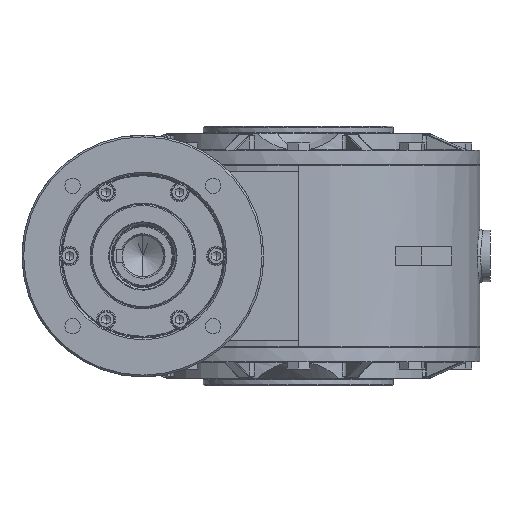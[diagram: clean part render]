
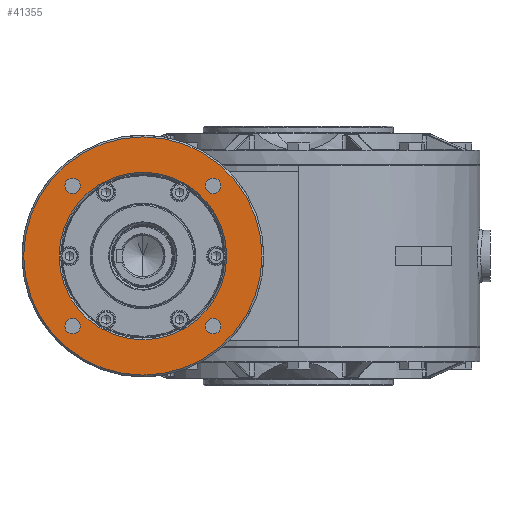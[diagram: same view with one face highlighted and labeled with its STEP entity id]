
A CAD part, left-side view. The second image highlights one B-rep face of the part: STEP entity #41355.
In plain terms, the highlighted planar face has unit normal (-1, 0, 0).
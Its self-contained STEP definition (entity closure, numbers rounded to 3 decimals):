
#3518 = DIRECTION ( 'NONE',  ( 0., 0., -1. ) ) ;
#3519 = DIRECTION ( 'NONE',  ( -1., 0., 0. ) ) ;
#3520 = CARTESIAN_POINT ( 'NONE',  ( -128., 90., 0. ) ) ;
#3521 = AXIS2_PLACEMENT_3D ( 'NONE', #3520, #3519, #3518 ) ;
#3522 = CIRCLE ( 'NONE', #3521, 69. ) ;
#3526 = FACE_BOUND ( 'NONE', #41312, .T. ) ;
#3527 = FACE_OUTER_BOUND ( 'NONE', #41749, .T. ) ;
#3572 = PLANE ( 'NONE',  #3594 ) ;
#3573 = FACE_BOUND ( 'NONE', #41709, .T. ) ;
#3574 = FACE_BOUND ( 'NONE', #41533, .T. ) ;
#3575 = FACE_BOUND ( 'NONE', #41528, .T. ) ;
#3577 = FACE_BOUND ( 'NONE', #41337, .T. ) ;
#3591 = DIRECTION ( 'NONE',  ( 0., -1., 0. ) ) ;
#3592 = DIRECTION ( 'NONE',  ( -1., 0., 0. ) ) ;
#3593 = CARTESIAN_POINT ( 'NONE',  ( -128., 90., 0. ) ) ;
#3594 = AXIS2_PLACEMENT_3D ( 'NONE', #3593, #3592, #3591 ) ;
#6884 = DIRECTION ( 'NONE',  ( 0., 0., 1. ) ) ;
#6885 = DIRECTION ( 'NONE',  ( 1., 0., 0. ) ) ;
#6886 = CARTESIAN_POINT ( 'NONE',  ( -128., 90., 0. ) ) ;
#6887 = AXIS2_PLACEMENT_3D ( 'NONE', #6886, #6885, #6884 ) ;
#6888 = CIRCLE ( 'NONE', #6887, 48.5 ) ;
#21525 = EDGE_CURVE ( 'NONE', #35890, #36058, #64818, .T. ) ;
#21539 = EDGE_CURVE ( 'NONE', #36050, #36053, #64704, .T. ) ;
#21567 = EDGE_CURVE ( 'NONE', #36160, #36065, #64690, .T. ) ;
#21583 = EDGE_CURVE ( 'NONE', #36175, #36178, #64973, .T. ) ;
#23834 = CIRCLE ( 'NONE', #23865, 48.5 ) ;
#23861 = CARTESIAN_POINT ( 'NONE',  ( -128., 90., 48.5 ) ) ;
#23862 = DIRECTION ( 'NONE',  ( 0., 0., 1. ) ) ;
#23863 = DIRECTION ( 'NONE',  ( 1., 0., 0. ) ) ;
#23864 = CARTESIAN_POINT ( 'NONE',  ( -128., 90., 0. ) ) ;
#23865 = AXIS2_PLACEMENT_3D ( 'NONE', #23864, #23863, #23862 ) ;
#35890 = VERTEX_POINT ( 'NONE', #77861 ) ;
#36050 = VERTEX_POINT ( 'NONE', #78934 ) ;
#36052 = EDGE_CURVE ( 'NONE', #36053, #36050, #78983, .T. ) ;
#36053 = VERTEX_POINT ( 'NONE', #78978 ) ;
#36057 = EDGE_CURVE ( 'NONE', #36058, #35890, #78838, .T. ) ;
#36058 = VERTEX_POINT ( 'NONE', #78830 ) ;
#36064 = EDGE_CURVE ( 'NONE', #36065, #36160, #78811, .T. ) ;
#36065 = VERTEX_POINT ( 'NONE', #78800 ) ;
#36160 = VERTEX_POINT ( 'NONE', #79304 ) ;
#36175 = VERTEX_POINT ( 'NONE', #79132 ) ;
#36177 = EDGE_CURVE ( 'NONE', #36178, #36175, #79131, .T. ) ;
#36178 = VERTEX_POINT ( 'NONE', #79126 ) ;
#38046 = EDGE_CURVE ( 'NONE', #38047, #38049, #87212, .T. ) ;
#38047 = VERTEX_POINT ( 'NONE', #87208 ) ;
#38049 = VERTEX_POINT ( 'NONE', #87207 ) ;
#38250 = EDGE_CURVE ( 'NONE', #38252, #39947, #23834, .T. ) ;
#38252 = VERTEX_POINT ( 'NONE', #23861 ) ;
#39947 = VERTEX_POINT ( 'NONE', #71447 ) ;
#41307 = EDGE_CURVE ( 'NONE', #38049, #38047, #3522, .T. ) ;
#41309 = ORIENTED_EDGE ( 'NONE', *, *, #38046, .T. ) ;
#41312 = EDGE_LOOP ( 'NONE', ( #41314, #41527 ) ) ;
#41314 = ORIENTED_EDGE ( 'NONE', *, *, #36057, .T. ) ;
#41337 = EDGE_LOOP ( 'NONE', ( #41339, #41744 ) ) ;
#41339 = ORIENTED_EDGE ( 'NONE', *, *, #38250, .T. ) ;
#41341 = ORIENTED_EDGE ( 'NONE', *, *, #41307, .T. ) ;
#41355 = ADVANCED_FACE ( 'NONE', ( #3577, #3527, #3526, #3575, #3574, #3573 ), #3572, .T. ) ;
#41527 = ORIENTED_EDGE ( 'NONE', *, *, #21525, .T. ) ;
#41528 = EDGE_LOOP ( 'NONE', ( #41529, #41531 ) ) ;
#41529 = ORIENTED_EDGE ( 'NONE', *, *, #36177, .T. ) ;
#41531 = ORIENTED_EDGE ( 'NONE', *, *, #21583, .T. ) ;
#41533 = EDGE_LOOP ( 'NONE', ( #41534, #41535 ) ) ;
#41534 = ORIENTED_EDGE ( 'NONE', *, *, #36064, .T. ) ;
#41535 = ORIENTED_EDGE ( 'NONE', *, *, #21567, .T. ) ;
#41709 = EDGE_LOOP ( 'NONE', ( #41767, #41768 ) ) ;
#41744 = ORIENTED_EDGE ( 'NONE', *, *, #41746, .T. ) ;
#41746 = EDGE_CURVE ( 'NONE', #39947, #38252, #6888, .T. ) ;
#41749 = EDGE_LOOP ( 'NONE', ( #41341, #41309 ) ) ;
#41767 = ORIENTED_EDGE ( 'NONE', *, *, #36052, .T. ) ;
#41768 = ORIENTED_EDGE ( 'NONE', *, *, #21539, .T. ) ;
#64682 = DIRECTION ( 'NONE',  ( 0., -1., 0. ) ) ;
#64683 = DIRECTION ( 'NONE',  ( 1., 0., 0. ) ) ;
#64684 = CARTESIAN_POINT ( 'NONE',  ( -128., 49.341, 40.659 ) ) ;
#64685 = AXIS2_PLACEMENT_3D ( 'NONE', #64684, #64683, #64682 ) ;
#64690 = CIRCLE ( 'NONE', #64685, 4.5 ) ;
#64700 = DIRECTION ( 'NONE',  ( 0., -1., 0. ) ) ;
#64701 = DIRECTION ( 'NONE',  ( 1., 0., 0. ) ) ;
#64702 = CARTESIAN_POINT ( 'NONE',  ( -128., 130.659, -40.659 ) ) ;
#64703 = AXIS2_PLACEMENT_3D ( 'NONE', #64702, #64701, #64700 ) ;
#64704 = CIRCLE ( 'NONE', #64703, 4.5 ) ;
#64812 = DIRECTION ( 'NONE',  ( 0., -1., 0. ) ) ;
#64813 = DIRECTION ( 'NONE',  ( 1., 0., 0. ) ) ;
#64814 = CARTESIAN_POINT ( 'NONE',  ( -128., 49.341, -40.659 ) ) ;
#64815 = AXIS2_PLACEMENT_3D ( 'NONE', #64814, #64813, #64812 ) ;
#64818 = CIRCLE ( 'NONE', #64815, 4.5 ) ;
#64973 = CIRCLE ( 'NONE', #65006, 4.5 ) ;
#65003 = DIRECTION ( 'NONE',  ( 0., -1., 0. ) ) ;
#65004 = DIRECTION ( 'NONE',  ( 1., 0., 0. ) ) ;
#65005 = CARTESIAN_POINT ( 'NONE',  ( -128., 130.659, 40.659 ) ) ;
#65006 = AXIS2_PLACEMENT_3D ( 'NONE', #65005, #65004, #65003 ) ;
#71447 = CARTESIAN_POINT ( 'NONE',  ( -128., 90., -48.5 ) ) ;
#77861 = CARTESIAN_POINT ( 'NONE',  ( -128., 53.841, -40.659 ) ) ;
#78800 = CARTESIAN_POINT ( 'NONE',  ( -128., 44.841, 40.659 ) ) ;
#78803 = DIRECTION ( 'NONE',  ( 0., -1., 0. ) ) ;
#78806 = DIRECTION ( 'NONE',  ( 1., 0., 0. ) ) ;
#78808 = CARTESIAN_POINT ( 'NONE',  ( -128., 49.341, 40.659 ) ) ;
#78809 = AXIS2_PLACEMENT_3D ( 'NONE', #78808, #78806, #78803 ) ;
#78811 = CIRCLE ( 'NONE', #78809, 4.5 ) ;
#78830 = CARTESIAN_POINT ( 'NONE',  ( -128., 44.841, -40.659 ) ) ;
#78832 = DIRECTION ( 'NONE',  ( 0., -1., 0. ) ) ;
#78834 = DIRECTION ( 'NONE',  ( 1., 0., 0. ) ) ;
#78835 = CARTESIAN_POINT ( 'NONE',  ( -128., 49.341, -40.659 ) ) ;
#78836 = AXIS2_PLACEMENT_3D ( 'NONE', #78835, #78834, #78832 ) ;
#78838 = CIRCLE ( 'NONE', #78836, 4.5 ) ;
#78930 = CARTESIAN_POINT ( 'NONE',  ( -128., 130.659, -40.659 ) ) ;
#78934 = CARTESIAN_POINT ( 'NONE',  ( -128., 135.159, -40.659 ) ) ;
#78978 = CARTESIAN_POINT ( 'NONE',  ( -128., 126.159, -40.659 ) ) ;
#78979 = DIRECTION ( 'NONE',  ( 0., -1., 0. ) ) ;
#78981 = DIRECTION ( 'NONE',  ( 1., 0., 0. ) ) ;
#78982 = AXIS2_PLACEMENT_3D ( 'NONE', #78930, #78981, #78979 ) ;
#78983 = CIRCLE ( 'NONE', #78982, 4.5 ) ;
#79126 = CARTESIAN_POINT ( 'NONE',  ( -128., 126.159, 40.659 ) ) ;
#79127 = DIRECTION ( 'NONE',  ( 0., -1., 0. ) ) ;
#79128 = DIRECTION ( 'NONE',  ( 1., 0., 0. ) ) ;
#79129 = CARTESIAN_POINT ( 'NONE',  ( -128., 130.659, 40.659 ) ) ;
#79130 = AXIS2_PLACEMENT_3D ( 'NONE', #79129, #79128, #79127 ) ;
#79131 = CIRCLE ( 'NONE', #79130, 4.5 ) ;
#79132 = CARTESIAN_POINT ( 'NONE',  ( -128., 135.159, 40.659 ) ) ;
#79304 = CARTESIAN_POINT ( 'NONE',  ( -128., 53.841, 40.659 ) ) ;
#87207 = CARTESIAN_POINT ( 'NONE',  ( -128., 90., -69. ) ) ;
#87208 = CARTESIAN_POINT ( 'NONE',  ( -128., 90., 69. ) ) ;
#87209 = DIRECTION ( 'NONE',  ( 0., 0., -1. ) ) ;
#87210 = DIRECTION ( 'NONE',  ( -1., 0., 0. ) ) ;
#87211 = AXIS2_PLACEMENT_3D ( 'NONE', #87219, #87210, #87209 ) ;
#87212 = CIRCLE ( 'NONE', #87211, 69. ) ;
#87219 = CARTESIAN_POINT ( 'NONE',  ( -128., 90., 0. ) ) ;
